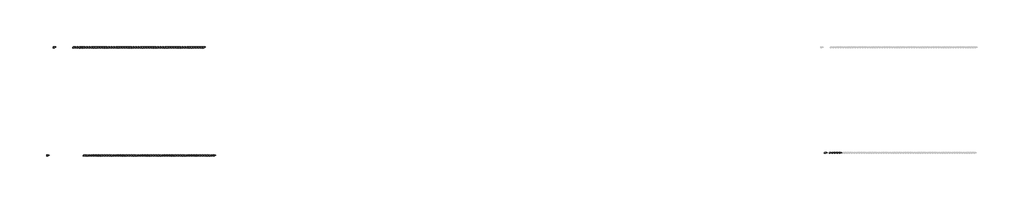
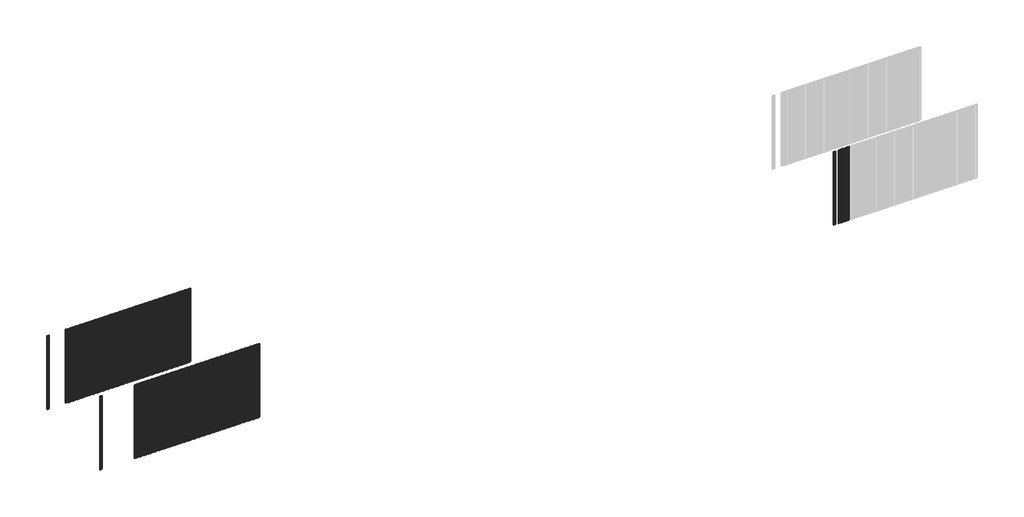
# One storey, part 1 of 2: 116 members.
"""IFC4 building model written with IfcOpenShell, lengths in millimetres."""

from ifc_helpers import new_model, si_unit, origin, place, context, project, spatial, transform, mapped, element, save
from components import rectangular_mullion_d2d7e0ae, rectangular_mullion_d2ce5b57, rectangular_mullion_72b57f38, rectangular_mullion_807a867e

model = new_model("IFC4")

# Units and contexts
model_context = context("Model", 3, world=origin())
ifc_project = project(units=[si_unit("LENGTHUNIT", "METRE", prefix="MILLI")], contexts=[model_context])

# Site, building, storey
site = spatial("IfcSite", under=ifc_project)
building = spatial("IfcBuilding", under=site)
storey = spatial("IfcBuildingStorey", under=building, Name="REN - Top", Elevation=4000.0)

# Members
placement = place(None, origin())
rectangular_mullion_shape = rectangular_mullion_d2d7e0ae(model_context)
element("IfcMember", 1, ObjectType="Rectangular Mullion : Renson_Linarte_LA-E25-01", at=placement, inside=storey, context=model_context, shape_type="MappedRepresentation", body=[
    mapped(rectangular_mullion_shape, transform((187223.0817456, 9961.9490047, 0.0), x_axis=(1.0, 0.0, 0.0), y_axis=(0.0, -1.0, 0.0), z_axis=(0.0, 0.0, -1.0))),
])
element("IfcMember", 2, ObjectType="Rectangular Mullion : Renson_Linarte_LA-E25-01", at=placement, inside=storey, context=model_context, shape_type="MappedRepresentation", body=[
    mapped(rectangular_mullion_shape, transform((187283.0817456, 9961.9490047, 0.0), x_axis=(1.0, 0.0, 0.0), y_axis=(0.0, -1.0, 0.0), z_axis=(0.0, 0.0, -1.0))),
])
element("IfcMember", 3, ObjectType="Rectangular Mullion : Renson_Linarte_LA-E25-01", at=placement, inside=storey, context=model_context, shape_type="MappedRepresentation", body=[
    mapped(rectangular_mullion_shape, transform((187343.0817456, 9961.9490047, 0.0), x_axis=(1.0, 0.0, 0.0), y_axis=(0.0, -1.0, 0.0), z_axis=(0.0, 0.0, -1.0))),
])
element("IfcMember", 4, ObjectType="Rectangular Mullion : Renson_Linarte_LA-E25-01", at=placement, inside=storey, context=model_context, shape_type="MappedRepresentation", body=[
    mapped(rectangular_mullion_shape, transform((187403.0817456, 9961.9490047, 0.0), x_axis=(1.0, 0.0, 0.0), y_axis=(0.0, -1.0, 0.0), z_axis=(0.0, 0.0, -1.0))),
])
element("IfcMember", 5, ObjectType="Rectangular Mullion : Renson_Linarte_LA-E25-01", at=placement, inside=storey, context=model_context, shape_type="MappedRepresentation", body=[
    mapped(rectangular_mullion_shape, transform((187463.0817456, 9961.9490047, 0.0), x_axis=(1.0, 0.0, 0.0), y_axis=(0.0, -1.0, 0.0), z_axis=(0.0, 0.0, -1.0))),
])
element("IfcMember", 6, ObjectType="Rectangular Mullion : Renson_Linarte_LA-E25-01", at=placement, inside=storey, context=model_context, shape_type="MappedRepresentation", body=[
    mapped(rectangular_mullion_shape, transform((187523.0817456, 9961.9490047, 0.0), x_axis=(1.0, 0.0, 0.0), y_axis=(0.0, -1.0, 0.0), z_axis=(0.0, 0.0, -1.0))),
])
element("IfcMember", 7, ObjectType="Rectangular Mullion : Renson_Linarte_LA-E25-01", at=placement, inside=storey, context=model_context, shape_type="MappedRepresentation", body=[
    mapped(rectangular_mullion_shape, transform((187583.0817456, 9961.9490047, 0.0), x_axis=(1.0, 0.0, 0.0), y_axis=(0.0, -1.0, 0.0), z_axis=(0.0, 0.0, -1.0))),
])
element("IfcMember", 8, ObjectType="Rectangular Mullion : Renson_Linarte_LA-E25-01", at=placement, inside=storey, context=model_context, shape_type="MappedRepresentation", body=[
    mapped(rectangular_mullion_shape, transform((187643.0817456, 9961.9490047, 0.0), x_axis=(1.0, 0.0, 0.0), y_axis=(0.0, -1.0, 0.0), z_axis=(0.0, 0.0, -1.0))),
])
element("IfcMember", 9, ObjectType="Rectangular Mullion : Renson_Linarte_LA-E25-01", at=placement, inside=storey, context=model_context, shape_type="MappedRepresentation", body=[
    mapped(rectangular_mullion_shape, transform((187703.0817456, 9961.9490047, 0.0), x_axis=(1.0, 0.0, 0.0), y_axis=(0.0, -1.0, 0.0), z_axis=(0.0, 0.0, -1.0))),
])
element("IfcMember", 10, ObjectType="Rectangular Mullion : Renson_Linarte_LA-E25-01", at=placement, inside=storey, context=model_context, shape_type="MappedRepresentation", body=[
    mapped(rectangular_mullion_shape, transform((187763.0817456, 9961.9490047, 0.0), x_axis=(1.0, 0.0, 0.0), y_axis=(0.0, -1.0, 0.0), z_axis=(0.0, 0.0, -1.0))),
])
element("IfcMember", 11, ObjectType="Rectangular Mullion : Renson_Linarte_LA-E25-01", at=placement, inside=storey, context=model_context, shape_type="MappedRepresentation", body=[
    mapped(rectangular_mullion_shape, transform((187823.0817456, 9961.9490047, 0.0), x_axis=(1.0, 0.0, 0.0), y_axis=(0.0, -1.0, 0.0), z_axis=(0.0, 0.0, -1.0))),
])
element("IfcMember", 12, ObjectType="Rectangular Mullion : Renson_Linarte_LA-E25-01", at=placement, inside=storey, context=model_context, shape_type="MappedRepresentation", body=[
    mapped(rectangular_mullion_shape, transform((187883.0817456, 9961.9490047, 0.0), x_axis=(1.0, 0.0, 0.0), y_axis=(0.0, -1.0, 0.0), z_axis=(0.0, 0.0, -1.0))),
])
element("IfcMember", 13, ObjectType="Rectangular Mullion : Renson_Linarte_LA-E25-01", at=placement, inside=storey, context=model_context, shape_type="MappedRepresentation", body=[
    mapped(rectangular_mullion_shape, transform((187943.0817456, 9961.9490047, 0.0), x_axis=(1.0, 0.0, 0.0), y_axis=(0.0, -1.0, 0.0), z_axis=(0.0, 0.0, -1.0))),
])
element("IfcMember", 14, ObjectType="Rectangular Mullion : Renson_Linarte_LA-E25-01", at=placement, inside=storey, context=model_context, shape_type="MappedRepresentation", body=[
    mapped(rectangular_mullion_shape, transform((188003.0817456, 9961.9490047, 0.0), x_axis=(1.0, 0.0, 0.0), y_axis=(0.0, -1.0, 0.0), z_axis=(0.0, 0.0, -1.0))),
])
element("IfcMember", 15, ObjectType="Rectangular Mullion : Renson_Linarte_LA-E25-01", at=placement, inside=storey, context=model_context, shape_type="MappedRepresentation", body=[
    mapped(rectangular_mullion_shape, transform((188063.0817456, 9961.9490047, 0.0), x_axis=(1.0, 0.0, 0.0), y_axis=(0.0, -1.0, 0.0), z_axis=(0.0, 0.0, -1.0))),
])
element("IfcMember", 16, ObjectType="Rectangular Mullion : Renson_Linarte_LA-E25-01", at=placement, inside=storey, context=model_context, shape_type="MappedRepresentation", body=[
    mapped(rectangular_mullion_shape, transform((188123.0817456, 9961.9490047, 0.0), x_axis=(1.0, 0.0, 0.0), y_axis=(0.0, -1.0, 0.0), z_axis=(0.0, 0.0, -1.0))),
])
element("IfcMember", 17, ObjectType="Rectangular Mullion : Renson_Linarte_LA-E25-01", at=placement, inside=storey, context=model_context, shape_type="MappedRepresentation", body=[
    mapped(rectangular_mullion_shape, transform((188183.0817456, 9961.9490047, 0.0), x_axis=(1.0, 0.0, 0.0), y_axis=(0.0, -1.0, 0.0), z_axis=(0.0, 0.0, -1.0))),
])
element("IfcMember", 18, ObjectType="Rectangular Mullion : Renson_Linarte_LA-E25-01", at=placement, inside=storey, context=model_context, shape_type="MappedRepresentation", body=[
    mapped(rectangular_mullion_shape, transform((188243.0817456, 9961.9490047, 0.0), x_axis=(1.0, 0.0, 0.0), y_axis=(0.0, -1.0, 0.0), z_axis=(0.0, 0.0, -1.0))),
])
element("IfcMember", 19, ObjectType="Rectangular Mullion : Renson_Linarte_LA-E25-01", at=placement, inside=storey, context=model_context, shape_type="MappedRepresentation", body=[
    mapped(rectangular_mullion_shape, transform((188303.0817456, 9961.9490047, 0.0), x_axis=(1.0, 0.0, 0.0), y_axis=(0.0, -1.0, 0.0), z_axis=(0.0, 0.0, -1.0))),
])
element("IfcMember", 20, ObjectType="Rectangular Mullion : Renson_Linarte_LA-E25-01", at=placement, inside=storey, context=model_context, shape_type="MappedRepresentation", body=[
    mapped(rectangular_mullion_shape, transform((188363.0817456, 9961.9490047, 0.0), x_axis=(1.0, 0.0, 0.0), y_axis=(0.0, -1.0, 0.0), z_axis=(0.0, 0.0, -1.0))),
])
element("IfcMember", 21, ObjectType="Rectangular Mullion : Renson_Linarte_LA-E25-01", at=placement, inside=storey, context=model_context, shape_type="MappedRepresentation", body=[
    mapped(rectangular_mullion_shape, transform((188423.0817456, 9961.9490047, 0.0), x_axis=(1.0, 0.0, 0.0), y_axis=(0.0, -1.0, 0.0), z_axis=(0.0, 0.0, -1.0))),
])
element("IfcMember", 22, ObjectType="Rectangular Mullion : Renson_Linarte_LA-E25-01", at=placement, inside=storey, context=model_context, shape_type="MappedRepresentation", body=[
    mapped(rectangular_mullion_shape, transform((188483.0817456, 9961.9490047, 0.0), x_axis=(1.0, 0.0, 0.0), y_axis=(0.0, -1.0, 0.0), z_axis=(0.0, 0.0, -1.0))),
])
element("IfcMember", 23, ObjectType="Rectangular Mullion : Renson_Linarte_LA-E25-01", at=placement, inside=storey, context=model_context, shape_type="MappedRepresentation", body=[
    mapped(rectangular_mullion_shape, transform((188543.0817456, 9961.9490047, 0.0), x_axis=(1.0, 0.0, 0.0), y_axis=(0.0, -1.0, 0.0), z_axis=(0.0, 0.0, -1.0))),
])
element("IfcMember", 24, ObjectType="Rectangular Mullion : Renson_Linarte_LA-E25-01", at=placement, inside=storey, context=model_context, shape_type="MappedRepresentation", body=[
    mapped(rectangular_mullion_shape, transform((188603.0817456, 9961.9490047, 0.0), x_axis=(1.0, 0.0, 0.0), y_axis=(0.0, -1.0, 0.0), z_axis=(0.0, 0.0, -1.0))),
])
element("IfcMember", 25, ObjectType="Rectangular Mullion : Renson_Linarte_LA-E25-01", at=placement, inside=storey, context=model_context, shape_type="MappedRepresentation", body=[
    mapped(rectangular_mullion_shape, transform((188663.0817456, 9961.9490047, 0.0), x_axis=(1.0, 0.0, 0.0), y_axis=(0.0, -1.0, 0.0), z_axis=(0.0, 0.0, -1.0))),
])
element("IfcMember", 26, ObjectType="Rectangular Mullion : Renson_Linarte_LA-E25-01", at=placement, inside=storey, context=model_context, shape_type="MappedRepresentation", body=[
    mapped(rectangular_mullion_shape, transform((188723.0817456, 9961.9490047, 0.0), x_axis=(1.0, 0.0, 0.0), y_axis=(0.0, -1.0, 0.0), z_axis=(0.0, 0.0, -1.0))),
])
element("IfcMember", 27, ObjectType="Rectangular Mullion : Renson_Linarte_LA-E25-01", at=placement, inside=storey, context=model_context, shape_type="MappedRepresentation", body=[
    mapped(rectangular_mullion_shape, transform((188783.0817456, 9961.9490047, 0.0), x_axis=(1.0, 0.0, 0.0), y_axis=(0.0, -1.0, 0.0), z_axis=(0.0, 0.0, -1.0))),
])
element("IfcMember", 28, ObjectType="Rectangular Mullion : Renson_Linarte_LA-E25-01", at=placement, inside=storey, context=model_context, shape_type="MappedRepresentation", body=[
    mapped(rectangular_mullion_shape, transform((188843.0817456, 9961.9490047, 0.0), x_axis=(1.0, 0.0, 0.0), y_axis=(0.0, -1.0, 0.0), z_axis=(0.0, 0.0, -1.0))),
])
element("IfcMember", 29, ObjectType="Rectangular Mullion : Renson_Linarte_LA-E25-01", at=placement, inside=storey, context=model_context, shape_type="MappedRepresentation", body=[
    mapped(rectangular_mullion_shape, transform((188903.0817456, 9961.9490047, 0.0), x_axis=(1.0, 0.0, 0.0), y_axis=(0.0, -1.0, 0.0), z_axis=(0.0, 0.0, -1.0))),
])
element("IfcMember", 30, ObjectType="Rectangular Mullion : Renson_Linarte_LA-E25-01", at=placement, inside=storey, context=model_context, shape_type="MappedRepresentation", body=[
    mapped(rectangular_mullion_shape, transform((188963.0817456, 9961.9490047, 0.0), x_axis=(1.0, 0.0, 0.0), y_axis=(0.0, -1.0, 0.0), z_axis=(0.0, 0.0, -1.0))),
])
element("IfcMember", 31, ObjectType="Rectangular Mullion : Renson_Linarte_LA-E25-01", at=placement, inside=storey, context=model_context, shape_type="MappedRepresentation", body=[
    mapped(rectangular_mullion_shape, transform((189023.0817456, 9961.9490047, 0.0), x_axis=(1.0, 0.0, 0.0), y_axis=(0.0, -1.0, 0.0), z_axis=(0.0, 0.0, -1.0))),
])
element("IfcMember", 32, ObjectType="Rectangular Mullion : Renson_Linarte_LA-E25-01", at=placement, inside=storey, context=model_context, shape_type="MappedRepresentation", body=[
    mapped(rectangular_mullion_shape, transform((189083.0817456, 9961.9490047, 0.0), x_axis=(1.0, 0.0, 0.0), y_axis=(0.0, -1.0, 0.0), z_axis=(0.0, 0.0, -1.0))),
])
element("IfcMember", 33, ObjectType="Rectangular Mullion : Renson_Linarte_LA-E25-01", at=placement, inside=storey, context=model_context, shape_type="MappedRepresentation", body=[
    mapped(rectangular_mullion_shape, transform((189143.0817456, 9961.9490047, 0.0), x_axis=(1.0, 0.0, 0.0), y_axis=(0.0, -1.0, 0.0), z_axis=(0.0, 0.0, -1.0))),
])
element("IfcMember", 34, ObjectType="Rectangular Mullion : Renson_Linarte_LA-E25-01", at=placement, inside=storey, context=model_context, shape_type="MappedRepresentation", body=[
    mapped(rectangular_mullion_shape, transform((189203.0817456, 9961.9490047, 0.0), x_axis=(1.0, 0.0, 0.0), y_axis=(0.0, -1.0, 0.0), z_axis=(0.0, 0.0, -1.0))),
])
element("IfcMember", 35, ObjectType="Rectangular Mullion : Renson_Linarte_LA-E25-01", at=placement, inside=storey, context=model_context, shape_type="MappedRepresentation", body=[
    mapped(rectangular_mullion_shape, transform((189263.0817456, 9961.9490047, 0.0), x_axis=(1.0, 0.0, 0.0), y_axis=(0.0, -1.0, 0.0), z_axis=(0.0, 0.0, -1.0))),
])
element("IfcMember", 36, ObjectType="Rectangular Mullion : Renson_Linarte_LA-E25-01", at=placement, inside=storey, context=model_context, shape_type="MappedRepresentation", body=[
    mapped(rectangular_mullion_shape, transform((189323.0817456, 9961.9490047, 0.0), x_axis=(1.0, 0.0, 0.0), y_axis=(0.0, -1.0, 0.0), z_axis=(0.0, 0.0, -1.0))),
])
element("IfcMember", 37, ObjectType="Rectangular Mullion : Renson_Linarte_LA-E25-01", at=placement, inside=storey, context=model_context, shape_type="MappedRepresentation", body=[
    mapped(rectangular_mullion_shape, transform((189383.0817456, 9961.9490047, 0.0), x_axis=(1.0, 0.0, 0.0), y_axis=(0.0, -1.0, 0.0), z_axis=(0.0, 0.0, -1.0))),
])
element("IfcMember", 38, ObjectType="Rectangular Mullion : Renson_Linarte_LA-E25-01", at=placement, inside=storey, context=model_context, shape_type="MappedRepresentation", body=[
    mapped(rectangular_mullion_shape, transform((189443.0817456, 9961.9490047, 0.0), x_axis=(1.0, 0.0, 0.0), y_axis=(0.0, -1.0, 0.0), z_axis=(0.0, 0.0, -1.0))),
])
element("IfcMember", 39, ObjectType="Rectangular Mullion : Renson_Linarte_LA-E25-01", at=placement, inside=storey, context=model_context, shape_type="MappedRepresentation", body=[
    mapped(rectangular_mullion_shape, transform((189503.0817456, 9961.9490047, 0.0), x_axis=(1.0, 0.0, 0.0), y_axis=(0.0, -1.0, 0.0), z_axis=(0.0, 0.0, -1.0))),
])
element("IfcMember", 40, ObjectType="Rectangular Mullion : Renson_Linarte_LA-E25-01", at=placement, inside=storey, context=model_context, shape_type="MappedRepresentation", body=[
    mapped(rectangular_mullion_shape, transform((189563.0817456, 9961.9490047, 0.0), x_axis=(1.0, 0.0, 0.0), y_axis=(0.0, -1.0, 0.0), z_axis=(0.0, 0.0, -1.0))),
])
element("IfcMember", 41, ObjectType="Rectangular Mullion : Renson_Linarte_LA-E25-01", at=placement, inside=storey, context=model_context, shape_type="MappedRepresentation", body=[
    mapped(rectangular_mullion_shape, transform((189623.0817456, 9961.9490047, 0.0), x_axis=(1.0, 0.0, 0.0), y_axis=(0.0, -1.0, 0.0), z_axis=(0.0, 0.0, -1.0))),
])
element("IfcMember", 42, ObjectType="Rectangular Mullion : Renson_Linarte_LA-E25-01", at=placement, inside=storey, context=model_context, shape_type="MappedRepresentation", body=[
    mapped(rectangular_mullion_shape, transform((189683.0817456, 9961.9490047, 0.0), x_axis=(1.0, 0.0, 0.0), y_axis=(0.0, -1.0, 0.0), z_axis=(0.0, 0.0, -1.0))),
])
element("IfcMember", 43, ObjectType="Rectangular Mullion : Renson_Linarte_LA-E25-01", at=placement, inside=storey, context=model_context, shape_type="MappedRepresentation", body=[
    mapped(rectangular_mullion_shape, transform((189743.0817456, 9961.9490047, 0.0), x_axis=(1.0, 0.0, 0.0), y_axis=(0.0, -1.0, 0.0), z_axis=(0.0, 0.0, -1.0))),
])
element("IfcMember", 44, ObjectType="Rectangular Mullion : Renson_Linarte_LA-E25-01", at=placement, inside=storey, context=model_context, shape_type="MappedRepresentation", body=[
    mapped(rectangular_mullion_shape, transform((189803.0817456, 9961.9490047, 0.0), x_axis=(1.0, 0.0, 0.0), y_axis=(0.0, -1.0, 0.0), z_axis=(0.0, 0.0, -1.0))),
])
element("IfcMember", 45, ObjectType="Rectangular Mullion : Renson_Linarte_LA-E25-01", at=placement, inside=storey, context=model_context, shape_type="MappedRepresentation", body=[
    mapped(rectangular_mullion_shape, transform((189863.0817456, 9961.9490047, 0.0), x_axis=(1.0, 0.0, 0.0), y_axis=(0.0, -1.0, 0.0), z_axis=(0.0, 0.0, -1.0))),
])
element("IfcMember", 46, ObjectType="Rectangular Mullion : Renson_Linarte_LA-E25-01", at=placement, inside=storey, context=model_context, shape_type="MappedRepresentation", body=[
    mapped(rectangular_mullion_shape, transform((189923.0817456, 9961.9490047, 0.0), x_axis=(1.0, 0.0, 0.0), y_axis=(0.0, -1.0, 0.0), z_axis=(0.0, 0.0, -1.0))),
])
element("IfcMember", 47, ObjectType="Rectangular Mullion : Renson_Linarte_LA-E25-01", at=placement, inside=storey, context=model_context, shape_type="MappedRepresentation", body=[
    mapped(rectangular_mullion_shape, transform((189983.0817456, 9961.9490047, 0.0), x_axis=(1.0, 0.0, 0.0), y_axis=(0.0, -1.0, 0.0), z_axis=(0.0, 0.0, -1.0))),
])
element("IfcMember", 48, ObjectType="Rectangular Mullion : Renson_Linarte_LA-E25-01", at=placement, inside=storey, context=model_context, shape_type="MappedRepresentation", body=[
    mapped(rectangular_mullion_shape, transform((190043.0817456, 9961.9490047, 0.0), x_axis=(1.0, 0.0, 0.0), y_axis=(0.0, -1.0, 0.0), z_axis=(0.0, 0.0, -1.0))),
])
element("IfcMember", 49, ObjectType="Rectangular Mullion : Renson_Linarte_LA-E25-01", at=placement, inside=storey, context=model_context, shape_type="MappedRepresentation", body=[
    mapped(rectangular_mullion_shape, transform((190103.0817456, 9961.9490047, 0.0), x_axis=(1.0, 0.0, 0.0), y_axis=(0.0, -1.0, 0.0), z_axis=(0.0, 0.0, -1.0))),
])
element("IfcMember", 50, ObjectType="Rectangular Mullion : Renson_Linarte_LA-E25-01", at=placement, inside=storey, context=model_context, shape_type="MappedRepresentation", body=[
    mapped(rectangular_mullion_shape, transform((190163.0817456, 9961.9490047, 0.0), x_axis=(1.0, 0.0, 0.0), y_axis=(0.0, -1.0, 0.0), z_axis=(0.0, 0.0, -1.0))),
])
element("IfcMember", 51, ObjectType="Rectangular Mullion : Renson_Linarte_LA-E25-01", at=placement, inside=storey, context=model_context, shape_type="MappedRepresentation", body=[
    mapped(rectangular_mullion_shape, transform((190223.0817456, 9961.9490047, 0.0), x_axis=(1.0, 0.0, 0.0), y_axis=(0.0, -1.0, 0.0), z_axis=(0.0, 0.0, -1.0))),
])
element("IfcMember", 52, ObjectType="Rectangular Mullion : Renson_Linarte_LA-E25-01", at=placement, inside=storey, context=model_context, shape_type="MappedRepresentation", body=[
    mapped(rectangular_mullion_shape, transform((190283.0817456, 9961.9490047, 0.0), x_axis=(1.0, 0.0, 0.0), y_axis=(0.0, -1.0, 0.0), z_axis=(0.0, 0.0, -1.0))),
])
element("IfcMember", 53, ObjectType="Rectangular Mullion : Renson_Linarte_LA-E25-01", at=placement, inside=storey, context=model_context, shape_type="MappedRepresentation", body=[
    mapped(rectangular_mullion_shape, transform((190343.0817456, 9961.9490047, 0.0), x_axis=(1.0, 0.0, 0.0), y_axis=(0.0, -1.0, 0.0), z_axis=(0.0, 0.0, -1.0))),
])
element("IfcMember", 54, ObjectType="Rectangular Mullion : Renson_Linarte_LA-E25-01", at=placement, inside=storey, context=model_context, shape_type="MappedRepresentation", body=[
    mapped(rectangular_mullion_shape, transform((190403.0817456, 9961.9490047, 0.0), x_axis=(1.0, 0.0, 0.0), y_axis=(0.0, -1.0, 0.0), z_axis=(0.0, 0.0, -1.0))),
])
element("IfcMember", 55, ObjectType="Rectangular Mullion : Renson_Linarte_LA-E25-01", at=placement, inside=storey, context=model_context, shape_type="MappedRepresentation", body=[
    mapped(rectangular_mullion_shape, transform((186962.4238388, 12609.3326462, 0.0), x_axis=(1.0, 0.0, 0.0), y_axis=(0.0, -1.0, 0.0), z_axis=(0.0, 0.0, -1.0))),
])
element("IfcMember", 56, ObjectType="Rectangular Mullion : Renson_Linarte_LA-E25-01", at=placement, inside=storey, context=model_context, shape_type="MappedRepresentation", body=[
    mapped(rectangular_mullion_shape, transform((187029.0238388, 12609.3326462, 0.0), x_axis=(1.0, 0.0, 0.0), y_axis=(0.0, -1.0, 0.0), z_axis=(0.0, 0.0, -1.0))),
])
element("IfcMember", 57, ObjectType="Rectangular Mullion : Renson_Linarte_LA-E25-01", at=placement, inside=storey, context=model_context, shape_type="MappedRepresentation", body=[
    mapped(rectangular_mullion_shape, transform((187089.0238388, 12609.3326462, 0.0), x_axis=(1.0, 0.0, 0.0), y_axis=(0.0, -1.0, 0.0), z_axis=(0.0, 0.0, -1.0))),
])
element("IfcMember", 58, ObjectType="Rectangular Mullion : Renson_Linarte_LA-E25-01", at=placement, inside=storey, context=model_context, shape_type="MappedRepresentation", body=[
    mapped(rectangular_mullion_shape, transform((187142.4238388, 12609.3326462, 0.0), x_axis=(1.0, 0.0, 0.0), y_axis=(0.0, -1.0, 0.0), z_axis=(0.0, 0.0, -1.0))),
])
element("IfcMember", 59, ObjectType="Rectangular Mullion : Renson_Linarte_LA-E25-01", at=placement, inside=storey, context=model_context, shape_type="MappedRepresentation", body=[
    mapped(rectangular_mullion_shape, transform((187202.4238388, 12609.3326462, 0.0), x_axis=(1.0, 0.0, 0.0), y_axis=(0.0, -1.0, 0.0), z_axis=(0.0, 0.0, -1.0))),
])
element("IfcMember", 60, ObjectType="Rectangular Mullion : Renson_Linarte_LA-E25-01", at=placement, inside=storey, context=model_context, shape_type="MappedRepresentation", body=[
    mapped(rectangular_mullion_shape, transform((187262.4238388, 12609.3326462, 0.0), x_axis=(1.0, 0.0, 0.0), y_axis=(0.0, -1.0, 0.0), z_axis=(0.0, 0.0, -1.0))),
])
element("IfcMember", 61, ObjectType="Rectangular Mullion : Renson_Linarte_LA-E25-01", at=placement, inside=storey, context=model_context, shape_type="MappedRepresentation", body=[
    mapped(rectangular_mullion_shape, transform((187322.4238388, 12609.3326462, 0.0), x_axis=(1.0, 0.0, 0.0), y_axis=(0.0, -1.0, 0.0), z_axis=(0.0, 0.0, -1.0))),
])
element("IfcMember", 62, ObjectType="Rectangular Mullion : Renson_Linarte_LA-E25-01", at=placement, inside=storey, context=model_context, shape_type="MappedRepresentation", body=[
    mapped(rectangular_mullion_shape, transform((187382.4238388, 12609.3326462, 0.0), x_axis=(1.0, 0.0, 0.0), y_axis=(0.0, -1.0, 0.0), z_axis=(0.0, 0.0, -1.0))),
])
element("IfcMember", 63, ObjectType="Rectangular Mullion : Renson_Linarte_LA-E25-01", at=placement, inside=storey, context=model_context, shape_type="MappedRepresentation", body=[
    mapped(rectangular_mullion_shape, transform((187442.4238388, 12609.3326462, 0.0), x_axis=(1.0, 0.0, 0.0), y_axis=(0.0, -1.0, 0.0), z_axis=(0.0, 0.0, -1.0))),
])
element("IfcMember", 64, ObjectType="Rectangular Mullion : Renson_Linarte_LA-E25-01", at=placement, inside=storey, context=model_context, shape_type="MappedRepresentation", body=[
    mapped(rectangular_mullion_shape, transform((187502.4238388, 12609.3326462, 0.0), x_axis=(1.0, 0.0, 0.0), y_axis=(0.0, -1.0, 0.0), z_axis=(0.0, 0.0, -1.0))),
])
element("IfcMember", 65, ObjectType="Rectangular Mullion : Renson_Linarte_LA-E25-01", at=placement, inside=storey, context=model_context, shape_type="MappedRepresentation", body=[
    mapped(rectangular_mullion_shape, transform((187562.4238388, 12609.3326462, 0.0), x_axis=(1.0, 0.0, 0.0), y_axis=(0.0, -1.0, 0.0), z_axis=(0.0, 0.0, -1.0))),
])
element("IfcMember", 66, ObjectType="Rectangular Mullion : Renson_Linarte_LA-E25-01", at=placement, inside=storey, context=model_context, shape_type="MappedRepresentation", body=[
    mapped(rectangular_mullion_shape, transform((187622.4238388, 12609.3326462, 0.0), x_axis=(1.0, 0.0, 0.0), y_axis=(0.0, -1.0, 0.0), z_axis=(0.0, 0.0, -1.0))),
])
element("IfcMember", 67, ObjectType="Rectangular Mullion : Renson_Linarte_LA-E25-01", at=placement, inside=storey, context=model_context, shape_type="MappedRepresentation", body=[
    mapped(rectangular_mullion_shape, transform((187682.4238388, 12609.3326462, 0.0), x_axis=(1.0, 0.0, 0.0), y_axis=(0.0, -1.0, 0.0), z_axis=(0.0, 0.0, -1.0))),
])
element("IfcMember", 68, ObjectType="Rectangular Mullion : Renson_Linarte_LA-E25-01", at=placement, inside=storey, context=model_context, shape_type="MappedRepresentation", body=[
    mapped(rectangular_mullion_shape, transform((187742.4238388, 12609.3326462, 0.0), x_axis=(1.0, 0.0, 0.0), y_axis=(0.0, -1.0, 0.0), z_axis=(0.0, 0.0, -1.0))),
])
element("IfcMember", 69, ObjectType="Rectangular Mullion : Renson_Linarte_LA-E25-01", at=placement, inside=storey, context=model_context, shape_type="MappedRepresentation", body=[
    mapped(rectangular_mullion_shape, transform((187802.4238388, 12609.3326462, 0.0), x_axis=(1.0, 0.0, 0.0), y_axis=(0.0, -1.0, 0.0), z_axis=(0.0, 0.0, -1.0))),
])
element("IfcMember", 70, ObjectType="Rectangular Mullion : Renson_Linarte_LA-E25-01", at=placement, inside=storey, context=model_context, shape_type="MappedRepresentation", body=[
    mapped(rectangular_mullion_shape, transform((187862.4238388, 12609.3326462, 0.0), x_axis=(1.0, 0.0, 0.0), y_axis=(0.0, -1.0, 0.0), z_axis=(0.0, 0.0, -1.0))),
])
element("IfcMember", 71, ObjectType="Rectangular Mullion : Renson_Linarte_LA-E25-01", at=placement, inside=storey, context=model_context, shape_type="MappedRepresentation", body=[
    mapped(rectangular_mullion_shape, transform((187922.4238388, 12609.3326462, 0.0), x_axis=(1.0, 0.0, 0.0), y_axis=(0.0, -1.0, 0.0), z_axis=(0.0, 0.0, -1.0))),
])
element("IfcMember", 72, ObjectType="Rectangular Mullion : Renson_Linarte_LA-E25-01", at=placement, inside=storey, context=model_context, shape_type="MappedRepresentation", body=[
    mapped(rectangular_mullion_shape, transform((187982.4238388, 12609.3326462, 0.0), x_axis=(1.0, 0.0, 0.0), y_axis=(0.0, -1.0, 0.0), z_axis=(0.0, 0.0, -1.0))),
])
element("IfcMember", 73, ObjectType="Rectangular Mullion : Renson_Linarte_LA-E25-01", at=placement, inside=storey, context=model_context, shape_type="MappedRepresentation", body=[
    mapped(rectangular_mullion_shape, transform((188042.4238388, 12609.3326462, 0.0), x_axis=(1.0, 0.0, 0.0), y_axis=(0.0, -1.0, 0.0), z_axis=(0.0, 0.0, -1.0))),
])
element("IfcMember", 74, ObjectType="Rectangular Mullion : Renson_Linarte_LA-E25-01", at=placement, inside=storey, context=model_context, shape_type="MappedRepresentation", body=[
    mapped(rectangular_mullion_shape, transform((188102.4238388, 12609.3326462, 0.0), x_axis=(1.0, 0.0, 0.0), y_axis=(0.0, -1.0, 0.0), z_axis=(0.0, 0.0, -1.0))),
])
element("IfcMember", 75, ObjectType="Rectangular Mullion : Renson_Linarte_LA-E25-01", at=placement, inside=storey, context=model_context, shape_type="MappedRepresentation", body=[
    mapped(rectangular_mullion_shape, transform((188162.4238388, 12609.3326462, 0.0), x_axis=(1.0, 0.0, 0.0), y_axis=(0.0, -1.0, 0.0), z_axis=(0.0, 0.0, -1.0))),
])
element("IfcMember", 76, ObjectType="Rectangular Mullion : Renson_Linarte_LA-E25-01", at=placement, inside=storey, context=model_context, shape_type="MappedRepresentation", body=[
    mapped(rectangular_mullion_shape, transform((188222.4238388, 12609.3326462, 0.0), x_axis=(1.0, 0.0, 0.0), y_axis=(0.0, -1.0, 0.0), z_axis=(0.0, 0.0, -1.0))),
])
element("IfcMember", 77, ObjectType="Rectangular Mullion : Renson_Linarte_LA-E25-01", at=placement, inside=storey, context=model_context, shape_type="MappedRepresentation", body=[
    mapped(rectangular_mullion_shape, transform((188282.4238388, 12609.3326462, 0.0), x_axis=(1.0, 0.0, 0.0), y_axis=(0.0, -1.0, 0.0), z_axis=(0.0, 0.0, -1.0))),
])
element("IfcMember", 78, ObjectType="Rectangular Mullion : Renson_Linarte_LA-E25-01", at=placement, inside=storey, context=model_context, shape_type="MappedRepresentation", body=[
    mapped(rectangular_mullion_shape, transform((188342.4238388, 12609.3326462, 0.0), x_axis=(1.0, 0.0, 0.0), y_axis=(0.0, -1.0, 0.0), z_axis=(0.0, 0.0, -1.0))),
])
element("IfcMember", 79, ObjectType="Rectangular Mullion : Renson_Linarte_LA-E25-01", at=placement, inside=storey, context=model_context, shape_type="MappedRepresentation", body=[
    mapped(rectangular_mullion_shape, transform((188402.4238388, 12609.3326462, 0.0), x_axis=(1.0, 0.0, 0.0), y_axis=(0.0, -1.0, 0.0), z_axis=(0.0, 0.0, -1.0))),
])
element("IfcMember", 80, ObjectType="Rectangular Mullion : Renson_Linarte_LA-E25-01", at=placement, inside=storey, context=model_context, shape_type="MappedRepresentation", body=[
    mapped(rectangular_mullion_shape, transform((188462.4238388, 12609.3326462, 0.0), x_axis=(1.0, 0.0, 0.0), y_axis=(0.0, -1.0, 0.0), z_axis=(0.0, 0.0, -1.0))),
])
element("IfcMember", 81, ObjectType="Rectangular Mullion : Renson_Linarte_LA-E25-01", at=placement, inside=storey, context=model_context, shape_type="MappedRepresentation", body=[
    mapped(rectangular_mullion_shape, transform((188522.4238388, 12609.3326462, 0.0), x_axis=(1.0, 0.0, 0.0), y_axis=(0.0, -1.0, 0.0), z_axis=(0.0, 0.0, -1.0))),
])
element("IfcMember", 82, ObjectType="Rectangular Mullion : Renson_Linarte_LA-E25-01", at=placement, inside=storey, context=model_context, shape_type="MappedRepresentation", body=[
    mapped(rectangular_mullion_shape, transform((188582.4238388, 12609.3326462, 0.0), x_axis=(1.0, 0.0, 0.0), y_axis=(0.0, -1.0, 0.0), z_axis=(0.0, 0.0, -1.0))),
])
element("IfcMember", 83, ObjectType="Rectangular Mullion : Renson_Linarte_LA-E25-01", at=placement, inside=storey, context=model_context, shape_type="MappedRepresentation", body=[
    mapped(rectangular_mullion_shape, transform((188642.4238388, 12609.3326462, 0.0), x_axis=(1.0, 0.0, 0.0), y_axis=(0.0, -1.0, 0.0), z_axis=(0.0, 0.0, -1.0))),
])
element("IfcMember", 84, ObjectType="Rectangular Mullion : Renson_Linarte_LA-E25-01", at=placement, inside=storey, context=model_context, shape_type="MappedRepresentation", body=[
    mapped(rectangular_mullion_shape, transform((188702.4238388, 12609.3326462, 0.0), x_axis=(1.0, 0.0, 0.0), y_axis=(0.0, -1.0, 0.0), z_axis=(0.0, 0.0, -1.0))),
])
element("IfcMember", 85, ObjectType="Rectangular Mullion : Renson_Linarte_LA-E25-01", at=placement, inside=storey, context=model_context, shape_type="MappedRepresentation", body=[
    mapped(rectangular_mullion_shape, transform((188762.4238388, 12609.3326462, 0.0), x_axis=(1.0, 0.0, 0.0), y_axis=(0.0, -1.0, 0.0), z_axis=(0.0, 0.0, -1.0))),
])
element("IfcMember", 86, ObjectType="Rectangular Mullion : Renson_Linarte_LA-E25-01", at=placement, inside=storey, context=model_context, shape_type="MappedRepresentation", body=[
    mapped(rectangular_mullion_shape, transform((188822.4238388, 12609.3326462, 0.0), x_axis=(1.0, 0.0, 0.0), y_axis=(0.0, -1.0, 0.0), z_axis=(0.0, 0.0, -1.0))),
])
element("IfcMember", 87, ObjectType="Rectangular Mullion : Renson_Linarte_LA-E25-01", at=placement, inside=storey, context=model_context, shape_type="MappedRepresentation", body=[
    mapped(rectangular_mullion_shape, transform((188882.4238388, 12609.3326462, 0.0), x_axis=(1.0, 0.0, 0.0), y_axis=(0.0, -1.0, 0.0), z_axis=(0.0, 0.0, -1.0))),
])
element("IfcMember", 88, ObjectType="Rectangular Mullion : Renson_Linarte_LA-E25-01", at=placement, inside=storey, context=model_context, shape_type="MappedRepresentation", body=[
    mapped(rectangular_mullion_shape, transform((188942.4238388, 12609.3326462, 0.0), x_axis=(1.0, 0.0, 0.0), y_axis=(0.0, -1.0, 0.0), z_axis=(0.0, 0.0, -1.0))),
])
element("IfcMember", 89, ObjectType="Rectangular Mullion : Renson_Linarte_LA-E25-01", at=placement, inside=storey, context=model_context, shape_type="MappedRepresentation", body=[
    mapped(rectangular_mullion_shape, transform((189002.4238388, 12609.3326462, 0.0), x_axis=(1.0, 0.0, 0.0), y_axis=(0.0, -1.0, 0.0), z_axis=(0.0, 0.0, -1.0))),
])
element("IfcMember", 90, ObjectType="Rectangular Mullion : Renson_Linarte_LA-E25-01", at=placement, inside=storey, context=model_context, shape_type="MappedRepresentation", body=[
    mapped(rectangular_mullion_shape, transform((189062.4238388, 12609.3326462, 0.0), x_axis=(1.0, 0.0, 0.0), y_axis=(0.0, -1.0, 0.0), z_axis=(0.0, 0.0, -1.0))),
])
element("IfcMember", 91, ObjectType="Rectangular Mullion : Renson_Linarte_LA-E25-01", at=placement, inside=storey, context=model_context, shape_type="MappedRepresentation", body=[
    mapped(rectangular_mullion_shape, transform((189122.4238388, 12609.3326462, 0.0), x_axis=(1.0, 0.0, 0.0), y_axis=(0.0, -1.0, 0.0), z_axis=(0.0, 0.0, -1.0))),
])
element("IfcMember", 92, ObjectType="Rectangular Mullion : Renson_Linarte_LA-E25-01", at=placement, inside=storey, context=model_context, shape_type="MappedRepresentation", body=[
    mapped(rectangular_mullion_shape, transform((189182.4238388, 12609.3326462, 0.0), x_axis=(1.0, 0.0, 0.0), y_axis=(0.0, -1.0, 0.0), z_axis=(0.0, 0.0, -1.0))),
])
element("IfcMember", 93, ObjectType="Rectangular Mullion : Renson_Linarte_LA-E25-01", at=placement, inside=storey, context=model_context, shape_type="MappedRepresentation", body=[
    mapped(rectangular_mullion_shape, transform((189242.4238388, 12609.3326462, 0.0), x_axis=(1.0, 0.0, 0.0), y_axis=(0.0, -1.0, 0.0), z_axis=(0.0, 0.0, -1.0))),
])
element("IfcMember", 94, ObjectType="Rectangular Mullion : Renson_Linarte_LA-E25-01", at=placement, inside=storey, context=model_context, shape_type="MappedRepresentation", body=[
    mapped(rectangular_mullion_shape, transform((189302.4238388, 12609.3326462, 0.0), x_axis=(1.0, 0.0, 0.0), y_axis=(0.0, -1.0, 0.0), z_axis=(0.0, 0.0, -1.0))),
])
element("IfcMember", 95, ObjectType="Rectangular Mullion : Renson_Linarte_LA-E25-01", at=placement, inside=storey, context=model_context, shape_type="MappedRepresentation", body=[
    mapped(rectangular_mullion_shape, transform((189362.4238388, 12609.3326462, 0.0), x_axis=(1.0, 0.0, 0.0), y_axis=(0.0, -1.0, 0.0), z_axis=(0.0, 0.0, -1.0))),
])
element("IfcMember", 96, ObjectType="Rectangular Mullion : Renson_Linarte_LA-E25-01", at=placement, inside=storey, context=model_context, shape_type="MappedRepresentation", body=[
    mapped(rectangular_mullion_shape, transform((189422.4238388, 12609.3326462, 0.0), x_axis=(1.0, 0.0, 0.0), y_axis=(0.0, -1.0, 0.0), z_axis=(0.0, 0.0, -1.0))),
])
element("IfcMember", 97, ObjectType="Rectangular Mullion : Renson_Linarte_LA-E25-01", at=placement, inside=storey, context=model_context, shape_type="MappedRepresentation", body=[
    mapped(rectangular_mullion_shape, transform((189482.4238388, 12609.3326462, 0.0), x_axis=(1.0, 0.0, 0.0), y_axis=(0.0, -1.0, 0.0), z_axis=(0.0, 0.0, -1.0))),
])
element("IfcMember", 98, ObjectType="Rectangular Mullion : Renson_Linarte_LA-E25-01", at=placement, inside=storey, context=model_context, shape_type="MappedRepresentation", body=[
    mapped(rectangular_mullion_shape, transform((189542.4238388, 12609.3326462, 0.0), x_axis=(1.0, 0.0, 0.0), y_axis=(0.0, -1.0, 0.0), z_axis=(0.0, 0.0, -1.0))),
])
element("IfcMember", 99, ObjectType="Rectangular Mullion : Renson_Linarte_LA-E25-01", at=placement, inside=storey, context=model_context, shape_type="MappedRepresentation", body=[
    mapped(rectangular_mullion_shape, transform((189602.4238388, 12609.3326462, 0.0), x_axis=(1.0, 0.0, 0.0), y_axis=(0.0, -1.0, 0.0), z_axis=(0.0, 0.0, -1.0))),
])
element("IfcMember", 100, ObjectType="Rectangular Mullion : Renson_Linarte_LA-E25-01", at=placement, inside=storey, context=model_context, shape_type="MappedRepresentation", body=[
    mapped(rectangular_mullion_shape, transform((189662.4238388, 12609.3326462, 0.0), x_axis=(1.0, 0.0, 0.0), y_axis=(0.0, -1.0, 0.0), z_axis=(0.0, 0.0, -1.0))),
])
element("IfcMember", 101, ObjectType="Rectangular Mullion : Renson_Linarte_LA-E25-01", at=placement, inside=storey, context=model_context, shape_type="MappedRepresentation", body=[
    mapped(rectangular_mullion_shape, transform((189722.4238388, 12609.3326462, 0.0), x_axis=(1.0, 0.0, 0.0), y_axis=(0.0, -1.0, 0.0), z_axis=(0.0, 0.0, -1.0))),
])
element("IfcMember", 102, ObjectType="Rectangular Mullion : Renson_Linarte_LA-E25-01", at=placement, inside=storey, context=model_context, shape_type="MappedRepresentation", body=[
    mapped(rectangular_mullion_shape, transform((189782.4238388, 12609.3326462, 0.0), x_axis=(1.0, 0.0, 0.0), y_axis=(0.0, -1.0, 0.0), z_axis=(0.0, 0.0, -1.0))),
])
element("IfcMember", 103, ObjectType="Rectangular Mullion : Renson_Linarte_LA-E25-01", at=placement, inside=storey, context=model_context, shape_type="MappedRepresentation", body=[
    mapped(rectangular_mullion_shape, transform((189842.4238388, 12609.3326462, 0.0), x_axis=(1.0, 0.0, 0.0), y_axis=(0.0, -1.0, 0.0), z_axis=(0.0, 0.0, -1.0))),
])
element("IfcMember", 104, ObjectType="Rectangular Mullion : Renson_Linarte_LA-E25-01", at=placement, inside=storey, context=model_context, shape_type="MappedRepresentation", body=[
    mapped(rectangular_mullion_shape, transform((189902.4238388, 12609.3326462, 0.0), x_axis=(1.0, 0.0, 0.0), y_axis=(0.0, -1.0, 0.0), z_axis=(0.0, 0.0, -1.0))),
])
element("IfcMember", 105, ObjectType="Rectangular Mullion : Renson_Linarte_LA-E25-01", at=placement, inside=storey, context=model_context, shape_type="MappedRepresentation", body=[
    mapped(rectangular_mullion_shape, transform((189962.4238388, 12609.3326462, 0.0), x_axis=(1.0, 0.0, 0.0), y_axis=(0.0, -1.0, 0.0), z_axis=(0.0, 0.0, -1.0))),
])
element("IfcMember", 106, ObjectType="Rectangular Mullion : Renson_Linarte_LA-E25-01", at=placement, inside=storey, context=model_context, shape_type="MappedRepresentation", body=[
    mapped(rectangular_mullion_shape, transform((190022.4238388, 12609.3326462, 0.0), x_axis=(1.0, 0.0, 0.0), y_axis=(0.0, -1.0, 0.0), z_axis=(0.0, 0.0, -1.0))),
])
element("IfcMember", 107, ObjectType="Rectangular Mullion : Renson_Linarte_LA-E25-01", at=placement, inside=storey, context=model_context, shape_type="MappedRepresentation", body=[
    mapped(rectangular_mullion_shape, transform((190082.4238388, 12609.3326462, 0.0), x_axis=(1.0, 0.0, 0.0), y_axis=(0.0, -1.0, 0.0), z_axis=(0.0, 0.0, -1.0))),
])
element("IfcMember", 108, ObjectType="Rectangular Mullion : Renson_Linarte_LA-E25-01", at=placement, inside=storey, context=model_context, shape_type="MappedRepresentation", body=[
    mapped(rectangular_mullion_shape, transform((190142.4238388, 12609.3326462, 0.0), x_axis=(1.0, 0.0, 0.0), y_axis=(0.0, -1.0, 0.0), z_axis=(0.0, 0.0, -1.0))),
])
rectangular_mullion_2_shape = rectangular_mullion_d2ce5b57(model_context)
element("IfcMember", 109, ObjectType="Rectangular Mullion : Renson_Linarte_LA-E25-01", at=placement, inside=storey, context=model_context, shape_type="MappedRepresentation", body=[
    mapped(rectangular_mullion_2_shape, transform((186323.0817453, 9961.9490047, 2000.0), x_axis=(-1.0, 0.0, 0.0), y_axis=(0.0, -1.0, 0.0), z_axis=(0.0, 0.0, 1.0))),
])
element("IfcMember", 110, ObjectType="Rectangular Mullion : Renson_Linarte_LA-E25-01", at=placement, inside=storey, context=model_context, shape_type="MappedRepresentation", body=[
    mapped(rectangular_mullion_2_shape, transform((186482.4238385, 12609.3326462, 2000.0), x_axis=(-1.0, 0.0, 0.0), y_axis=(0.0, -1.0, 0.0), z_axis=(0.0, 0.0, 1.0))),
])
rectangular_mullion_3_shape = rectangular_mullion_72b57f38(model_context)
element("IfcMember", 111, ObjectType="Rectangular Mullion : Renson_Linarte_LA-B16-01", at=placement, inside=storey, context=model_context, shape_type="MappedRepresentation", body=[
    mapped(rectangular_mullion_3_shape, transform((205496.9839545, 10018.9412859, 0.0), x_axis=(1.0, 0.0, 0.0), y_axis=(0.0, -1.0, 0.0), z_axis=(0.0, 0.0, -1.0))),
])
element("IfcMember", 112, ObjectType="Rectangular Mullion : Renson_Linarte_LA-B16-01", at=placement, inside=storey, context=model_context, shape_type="MappedRepresentation", body=[
    mapped(rectangular_mullion_3_shape, transform((205556.9839545, 10018.9412859, 0.0), x_axis=(1.0, 0.0, 0.0), y_axis=(0.0, -1.0, 0.0), z_axis=(0.0, 0.0, -1.0))),
])
element("IfcMember", 113, ObjectType="Rectangular Mullion : Renson_Linarte_LA-B16-01", at=placement, inside=storey, context=model_context, shape_type="MappedRepresentation", body=[
    mapped(rectangular_mullion_3_shape, transform((205616.9839545, 10018.9412859, 0.0), x_axis=(1.0, 0.0, 0.0), y_axis=(0.0, -1.0, 0.0), z_axis=(0.0, 0.0, -1.0))),
])
element("IfcMember", 114, ObjectType="Rectangular Mullion : Renson_Linarte_LA-B16-01", at=placement, inside=storey, context=model_context, shape_type="MappedRepresentation", body=[
    mapped(rectangular_mullion_3_shape, transform((205676.9839545, 10018.9412859, 0.0), x_axis=(1.0, 0.0, 0.0), y_axis=(0.0, -1.0, 0.0), z_axis=(0.0, 0.0, -1.0))),
])
element("IfcMember", 115, ObjectType="Rectangular Mullion : Renson_Linarte_LA-B16-01", at=placement, inside=storey, context=model_context, shape_type="MappedRepresentation", body=[
    mapped(rectangular_mullion_3_shape, transform((205736.9839545, 10018.9412859, 0.0), x_axis=(1.0, 0.0, 0.0), y_axis=(0.0, -1.0, 0.0), z_axis=(0.0, 0.0, -1.0))),
])
rectangular_mullion_4_shape = rectangular_mullion_807a867e(model_context)
element("IfcMember", 116, ObjectType="Rectangular Mullion : Renson_Linarte_LA-B16-01", at=placement, inside=storey, context=model_context, shape_type="MappedRepresentation", body=[
    mapped(rectangular_mullion_4_shape, transform((205376.9839542, 10018.9412859, 2000.0), x_axis=(-1.0, 0.0, 0.0), y_axis=(0.0, -1.0, 0.0), z_axis=(0.0, 0.0, 1.0))),
])

save(model, "model.ifc")
